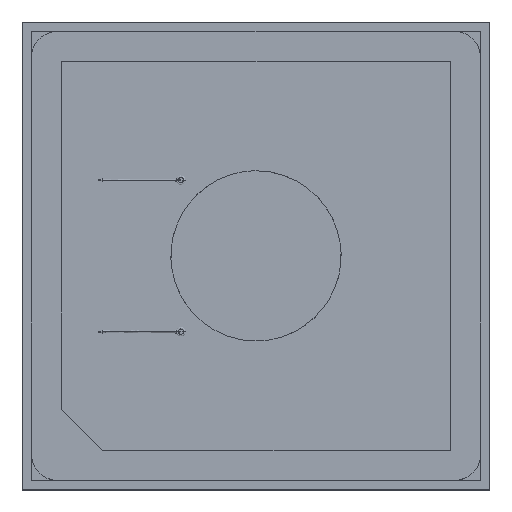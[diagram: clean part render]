
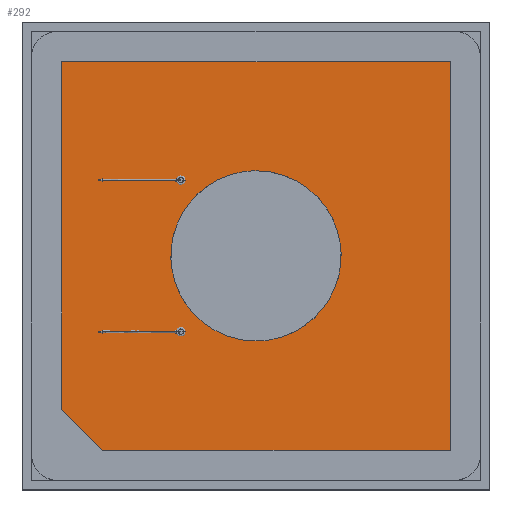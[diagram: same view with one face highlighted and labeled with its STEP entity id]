
A CAD part, top view. The second image highlights one B-rep face of the part: STEP entity #292.
In plain terms, the highlighted planar face has unit normal (0, 0, 1).
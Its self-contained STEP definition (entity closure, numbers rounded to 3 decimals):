
#14=FACE_BOUND('',#775,.T.);
#292=ADVANCED_FACE('',(#533,#14),#3623,.T.);
#533=FACE_OUTER_BOUND('',#774,.T.);
#774=EDGE_LOOP('',(#1251,#1252,#1253,#1254));
#775=EDGE_LOOP('',(#1255,#1256));
#1251=ORIENTED_EDGE('',*,*,#2236,.T.);
#1252=ORIENTED_EDGE('',*,*,#2237,.T.);
#1253=ORIENTED_EDGE('',*,*,#2238,.T.);
#1254=ORIENTED_EDGE('',*,*,#2239,.T.);
#1255=ORIENTED_EDGE('',*,*,#2248,.T.);
#1256=ORIENTED_EDGE('',*,*,#2232,.T.);
#2232=EDGE_CURVE('',#3311,#3312,#3063,.T.);
#2236=EDGE_CURVE('',#3315,#3316,#2772,.T.);
#2237=EDGE_CURVE('',#3316,#3317,#2773,.T.);
#2238=EDGE_CURVE('',#3317,#3318,#2774,.T.);
#2239=EDGE_CURVE('',#3318,#3315,#2775,.T.);
#2248=EDGE_CURVE('',#3312,#3311,#3065,.T.);
#2772=B_SPLINE_CURVE_WITH_KNOTS('',1,(#4853,#4854),.UNSPECIFIED.,.F.,.F.,
(2,2),(0.,2.87),.UNSPECIFIED.);
#2773=B_SPLINE_CURVE_WITH_KNOTS('',1,(#4855,#4856),.UNSPECIFIED.,.F.,.F.,
(2,2),(0.,2.87),.UNSPECIFIED.);
#2774=B_SPLINE_CURVE_WITH_KNOTS('',1,(#4857,#4858),.UNSPECIFIED.,.F.,.F.,
(2,2),(0.,2.87),.UNSPECIFIED.);
#2775=B_SPLINE_CURVE_WITH_KNOTS('',1,(#4859,#4860),.UNSPECIFIED.,.F.,.F.,
(2,2),(0.,2.87),.UNSPECIFIED.);
#3063=(
BOUNDED_CURVE()
B_SPLINE_CURVE(2,(#4839,#4840,#4841,#4842,#4843),.UNSPECIFIED.,.F.,.F.)
B_SPLINE_CURVE_WITH_KNOTS((3,2,3),(-1.873,-0.937,
0.),.UNSPECIFIED.)
CURVE()
GEOMETRIC_REPRESENTATION_ITEM()
RATIONAL_B_SPLINE_CURVE((1.,0.707,1.,0.707,1.))
REPRESENTATION_ITEM('')
);
#3065=(
BOUNDED_CURVE()
B_SPLINE_CURVE(2,(#4877,#4878,#4879,#4880,#4881),.UNSPECIFIED.,.F.,.F.)
B_SPLINE_CURVE_WITH_KNOTS((3,2,3),(-1.873,-0.937,
0.),.UNSPECIFIED.)
CURVE()
GEOMETRIC_REPRESENTATION_ITEM()
RATIONAL_B_SPLINE_CURVE((1.,0.707,1.,0.707,1.))
REPRESENTATION_ITEM('')
);
#3311=VERTEX_POINT('',#4827);
#3312=VERTEX_POINT('',#4828);
#3315=VERTEX_POINT('',#4831);
#3316=VERTEX_POINT('',#4832);
#3317=VERTEX_POINT('',#4833);
#3318=VERTEX_POINT('',#4834);
#3623=PLANE('',#3884);
#3884=AXIS2_PLACEMENT_3D('',#4803,#4022,$);
#4022=DIRECTION('',(0.,0.,1.));
#4803=CARTESIAN_POINT('',(-1.723,-1.723,-0.032));
#4827=CARTESIAN_POINT('',(0.596,0.,-0.032));
#4828=CARTESIAN_POINT('',(-0.596,0.,-0.032));
#4831=CARTESIAN_POINT('',(1.435,-1.435,-0.032));
#4832=CARTESIAN_POINT('',(1.435,1.435,-0.032));
#4833=CARTESIAN_POINT('',(-1.435,1.435,-0.032));
#4834=CARTESIAN_POINT('',(-1.435,-1.435,-0.032));
#4839=CARTESIAN_POINT('',(0.596,0.,-0.032));
#4840=CARTESIAN_POINT('',(0.596,-0.596,-0.032));
#4841=CARTESIAN_POINT('',(0.,-0.596,-0.032));
#4842=CARTESIAN_POINT('',(-0.596,-0.596,-0.032));
#4843=CARTESIAN_POINT('',(-0.596,0.,-0.032));
#4853=CARTESIAN_POINT('',(1.435,-1.435,-0.032));
#4854=CARTESIAN_POINT('',(1.435,1.435,-0.032));
#4855=CARTESIAN_POINT('',(1.435,1.435,-0.032));
#4856=CARTESIAN_POINT('',(-1.435,1.435,-0.032));
#4857=CARTESIAN_POINT('',(-1.435,1.435,-0.032));
#4858=CARTESIAN_POINT('',(-1.435,-1.435,-0.032));
#4859=CARTESIAN_POINT('',(-1.435,-1.435,-0.032));
#4860=CARTESIAN_POINT('',(1.435,-1.435,-0.032));
#4877=CARTESIAN_POINT('',(-0.596,0.,-0.032));
#4878=CARTESIAN_POINT('',(-0.596,0.596,-0.032));
#4879=CARTESIAN_POINT('',(0.,0.596,-0.032));
#4880=CARTESIAN_POINT('',(0.596,0.596,-0.032));
#4881=CARTESIAN_POINT('',(0.596,0.,-0.032));
